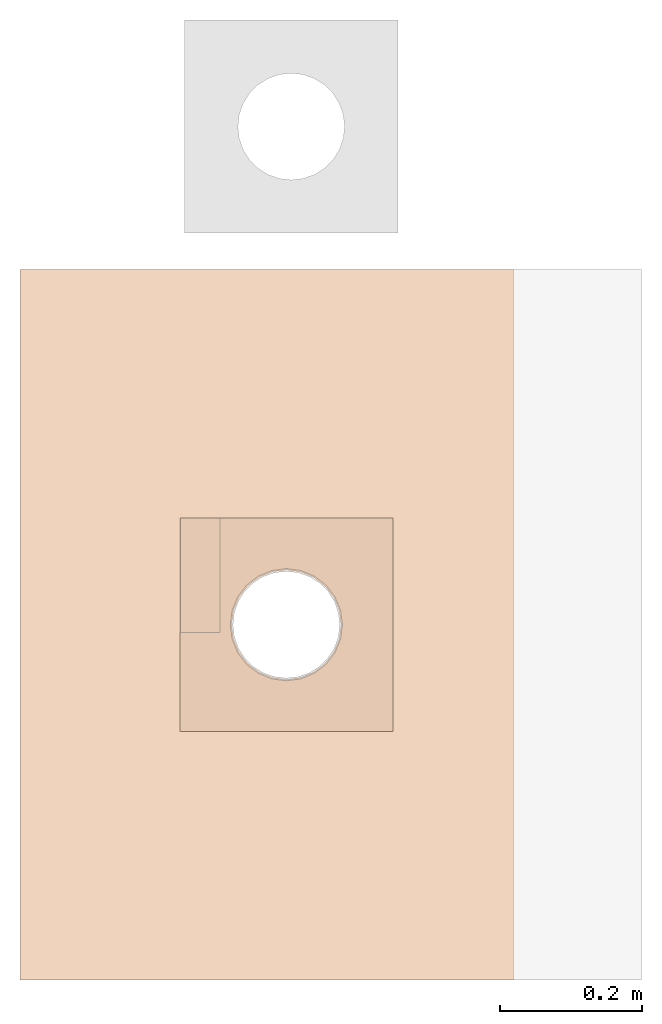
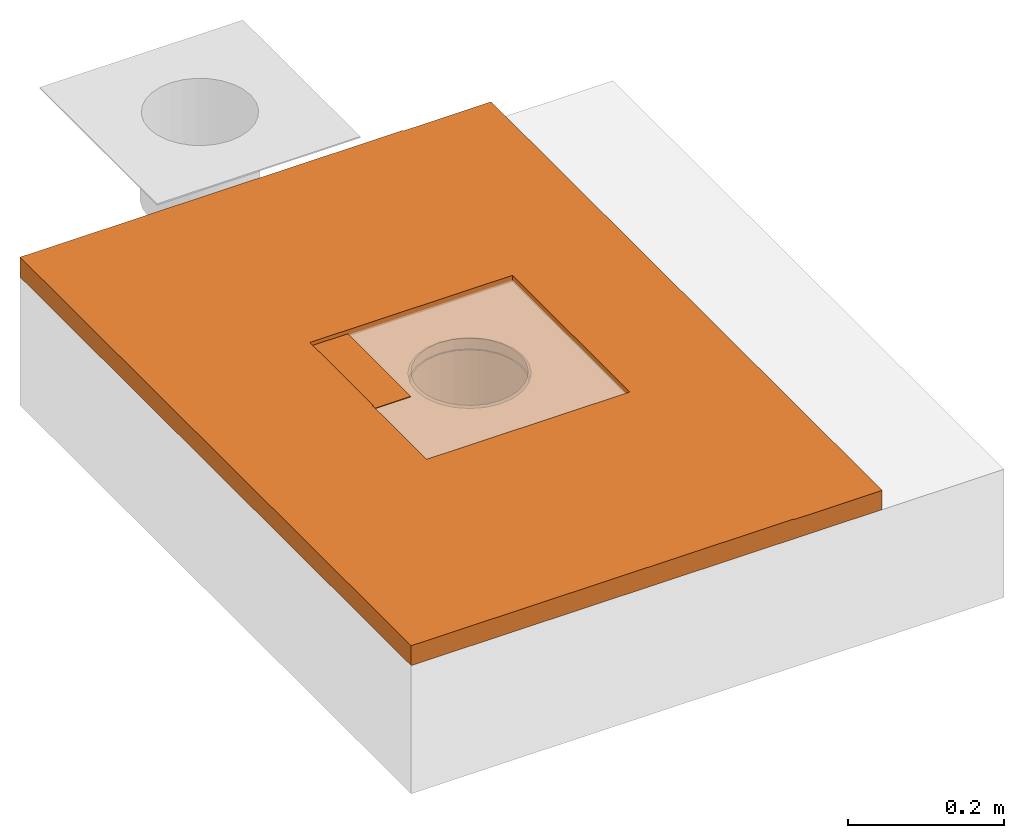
# One storey, part 3 of 3: 1 proxy.
"""IFC2X3 building model written with IfcOpenShell, lengths in metres."""

from ifc_helpers import new_model, entity, si_unit, converted_unit, derived_unit, direction, frame, origin, place, context, subcontext, project, spatial, faceted_brep, source, transform, mapped, material, material_list, type_object, type_shapes, element, save


model = new_model("IFC2X3")

# Units and contexts
model_context = context("Model", 3, precision=1e-05, world=origin(), true_north=direction((6.123031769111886e-17, 1.0)))
body_context = subcontext(model_context, "Body", "Model", "MODEL_VIEW")
ifc_project = project(units=[si_unit("LENGTHUNIT", "METRE"), si_unit("AREAUNIT", "SQUARE_METRE"), si_unit("VOLUMEUNIT", "CUBIC_METRE"), converted_unit("PLANEANGLEUNIT", "DEGREE", entity("IfcRatioMeasure", 0.017453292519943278), si_unit("PLANEANGLEUNIT", "RADIAN"), dimensions=[0, 0, 0, 0, 0, 0, 0]), si_unit("MASSUNIT", "GRAM", prefix="KILO"), derived_unit("MASSDENSITYUNIT", [(si_unit("MASSUNIT", "GRAM", prefix="KILO"), 1), (si_unit("LENGTHUNIT", "METRE"), -3)]), derived_unit("IONCONCENTRATIONUNIT", [(si_unit("MASSUNIT", "GRAM", prefix="KILO"), 1), (si_unit("LENGTHUNIT", "METRE"), -3)]), derived_unit("MOMENTOFINERTIAUNIT", [(si_unit("LENGTHUNIT", "METRE"), 4)]), si_unit("TIMEUNIT", "SECOND"), si_unit("FREQUENCYUNIT", "HERTZ"), si_unit("THERMODYNAMICTEMPERATUREUNIT", "DEGREE_CELSIUS"), derived_unit("THERMALTRANSMITTANCEUNIT", [(si_unit("MASSUNIT", "GRAM", prefix="KILO"), 1), (si_unit("THERMODYNAMICTEMPERATUREUNIT", "KELVIN"), -1), (si_unit("TIMEUNIT", "SECOND"), -3)]), derived_unit("THERMALCONDUCTANCEUNIT", [(si_unit("MASSUNIT", "GRAM", prefix="KILO"), 1), (si_unit("THERMODYNAMICTEMPERATUREUNIT", "KELVIN"), -1), (si_unit("TIMEUNIT", "SECOND"), -3), (si_unit("LENGTHUNIT", "METRE"), 1)]), derived_unit("VOLUMETRICFLOWRATEUNIT", [(si_unit("LENGTHUNIT", "METRE"), 3), (si_unit("TIMEUNIT", "SECOND"), -1)]), derived_unit("MASSFLOWRATEUNIT", [(si_unit("MASSUNIT", "GRAM", prefix="KILO"), 1), (si_unit("TIMEUNIT", "SECOND"), -1)]), derived_unit("ROTATIONALFREQUENCYUNIT", [(si_unit("TIMEUNIT", "SECOND"), -1)]), si_unit("ELECTRICCURRENTUNIT", "AMPERE"), si_unit("ELECTRICVOLTAGEUNIT", "VOLT"), si_unit("POWERUNIT", "WATT"), si_unit("FORCEUNIT", "NEWTON", prefix="KILO"), si_unit("ILLUMINANCEUNIT", "LUX"), si_unit("LUMINOUSFLUXUNIT", "LUMEN"), si_unit("LUMINOUSINTENSITYUNIT", "CANDELA"), derived_unit("USERDEFINED", [(si_unit("MASSUNIT", "GRAM", prefix="KILO"), -1), (si_unit("LENGTHUNIT", "METRE"), -2), (si_unit("TIMEUNIT", "SECOND"), 3), (si_unit("LUMINOUSFLUXUNIT", "LUMEN"), 1)]), derived_unit("USERDEFINED", [(si_unit("MASSUNIT", "GRAM", prefix="KILO"), 1), (si_unit("TIMEUNIT", "SECOND"), -3), (si_unit("LENGTHUNIT", "METRE"), 3), (si_unit("ELECTRICCURRENTUNIT", "AMPERE"), -2)]), derived_unit("SOUNDPOWERUNIT", [(si_unit("MASSUNIT", "GRAM", prefix="KILO"), 1), (si_unit("TIMEUNIT", "SECOND"), -3), (si_unit("LENGTHUNIT", "METRE"), 2)]), derived_unit("SOUNDPRESSUREUNIT", [(si_unit("MASSUNIT", "GRAM", prefix="KILO"), 1), (si_unit("LENGTHUNIT", "METRE"), -1), (si_unit("TIMEUNIT", "SECOND"), -2)]), derived_unit("LINEARVELOCITYUNIT", [(si_unit("LENGTHUNIT", "METRE"), 1), (si_unit("TIMEUNIT", "SECOND"), -1)]), si_unit("PRESSUREUNIT", "PASCAL"), derived_unit("USERDEFINED", [(si_unit("MASSUNIT", "GRAM", prefix="KILO"), 1), (si_unit("LENGTHUNIT", "METRE"), -2), (si_unit("TIMEUNIT", "SECOND"), -2)]), derived_unit("LINEARFORCEUNIT", [(si_unit("MASSUNIT", "GRAM", prefix="KILO"), 1), (si_unit("TIMEUNIT", "SECOND"), -2)]), derived_unit("PLANARFORCEUNIT", [(si_unit("MASSUNIT", "GRAM", prefix="KILO"), 1), (si_unit("LENGTHUNIT", "METRE"), -1), (si_unit("TIMEUNIT", "SECOND"), -2)]), derived_unit("SPECIFICHEATCAPACITYUNIT", [(si_unit("THERMODYNAMICTEMPERATUREUNIT", "KELVIN"), -1), (si_unit("LENGTHUNIT", "METRE"), 2), (si_unit("TIMEUNIT", "SECOND"), -2)]), derived_unit("HEATINGVALUEUNIT", [(si_unit("LENGTHUNIT", "METRE"), 2), (si_unit("TIMEUNIT", "SECOND"), -2)]), derived_unit("VAPORPERMEABILITYUNIT", [(si_unit("LENGTHUNIT", "METRE"), -1), (si_unit("TIMEUNIT", "SECOND"), 1)]), derived_unit("DYNAMICVISCOSITYUNIT", [(si_unit("MASSUNIT", "GRAM", prefix="KILO"), 1), (si_unit("TIMEUNIT", "SECOND"), -1), (si_unit("LENGTHUNIT", "METRE"), -1)]), derived_unit("THERMALEXPANSIONCOEFFICIENTUNIT", [(si_unit("THERMODYNAMICTEMPERATUREUNIT", "KELVIN"), -1)]), derived_unit("MODULUSOFELASTICITYUNIT", [(si_unit("MASSUNIT", "GRAM", prefix="KILO"), 1), (si_unit("LENGTHUNIT", "METRE"), -1), (si_unit("TIMEUNIT", "SECOND"), -2)]), derived_unit("ISOTHERMALMOISTURECAPACITYUNIT", [(si_unit("LENGTHUNIT", "METRE"), 3), (si_unit("MASSUNIT", "GRAM", prefix="KILO"), -1)]), derived_unit("MOISTUREDIFFUSIVITYUNIT", [(si_unit("TIMEUNIT", "SECOND"), -1), (si_unit("LENGTHUNIT", "METRE"), 2)])], contexts=[model_context])

# Site, building, storey
site_placement = place(None, origin())
site = spatial("IfcSite", under=ifc_project, at=site_placement, Name="Default", CompositionType="ELEMENT")
building_placement = place(site_placement, origin())
building = spatial("IfcBuilding", under=site, at=building_placement, CompositionType="ELEMENT")
storey_placement = place(building_placement, frame((0.0, 0.0, -0.0025237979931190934)))
storey = spatial("IfcBuildingStorey", under=building, at=storey_placement, Name="ARQ Térreo", CompositionType="ELEMENT", Elevation=-0.0025237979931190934)

# Proxy
ifc_material_1 = material(Name="#Impermeabilização")
ifc_material_2 = material(Name="Plástico")
ifc_material_3 = material(Name="#argamassa")
ifc_material_list = material_list([ifc_material_1, ifc_material_2, ifc_material_3])
building_element_proxy_type = type_object("IfcBuildingElementProxyType", Name="IMPER:IMPER", PredefinedType="NOTDEFINED", material=ifc_material_list)
shared_shape = source(origin(), body_context, "Body", "Brep", [
    faceted_brep([(0.2258540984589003, 0.48897795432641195, 0.3694349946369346), (0.22485409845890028, 0.48897795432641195, 0.3694349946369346), (0.22485409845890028, 0.48897795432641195, 0.3624128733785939), (0.28183460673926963, 0.48897795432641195, 0.3624128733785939), (0.28183460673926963, 0.48897795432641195, 0.36341287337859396), (0.2258540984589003, 0.48897795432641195, 0.36341287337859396), (0.2258540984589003, 0.6500658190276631, 0.3694349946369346), (0.2258540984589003, 0.6500658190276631, 0.36341287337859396), (0.28183460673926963, 0.6500658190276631, 0.36341287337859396), (0.28183460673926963, 0.6500658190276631, 0.3624128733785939), (0.22485409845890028, 0.6500658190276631, 0.3624128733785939), (0.22485409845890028, 0.6500658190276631, 0.3694349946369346)], [[[0, 1, 2, 3, 4, 5]], [[6, 7, 8, 9, 10, 11]], [[1, 0, 6, 11]], [[2, 1, 11, 10]], [[3, 2, 10, 9]], [[4, 3, 9, 8]], [[5, 4, 8, 7]], [[0, 5, 7, 6]]]),
    faceted_brep([(0.33535409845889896, 0.5684818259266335, 0.34300510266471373), (0.318992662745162, 0.5559272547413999, 0.34300510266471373), (0.33635409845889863, 0.5667497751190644, 0.34300510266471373), (0.35492503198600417, 0.5744421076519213, 0.34300510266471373), (0.35440739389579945, 0.5763739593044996, 0.34300510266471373), (0.32040687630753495, 0.5545130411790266, 0.34300510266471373), (0.306438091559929, 0.5395658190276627, 0.34300510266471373), (0.30817014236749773, 0.5385658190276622, 0.34300510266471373), (0.3004778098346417, 0.5199948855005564, 0.34300510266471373), (0.29854595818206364, 0.5205125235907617, 0.34300510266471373), (0.2978540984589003, 0.5000658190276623, 0.34300510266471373), (0.29585409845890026, 0.5000658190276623, 0.34300510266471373), (0.3004778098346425, 0.4801367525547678, 0.34300510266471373), (0.2985459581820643, 0.47961911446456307, 0.34300510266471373), (0.30817014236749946, 0.46156581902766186, 0.34300510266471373), (0.3064380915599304, 0.46056581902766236, 0.34300510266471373), (0.3204068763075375, 0.445618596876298, 0.34300510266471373), (0.31899266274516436, 0.4442043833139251, 0.34300510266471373), (0.33635409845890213, 0.43338186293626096, 0.34300510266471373), (0.33535409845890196, 0.43164981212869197, 0.34300510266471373), (0.3549250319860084, 0.4256895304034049, 0.34300510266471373), (0.3544073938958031, 0.4237576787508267, 0.34300510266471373), (0.3748540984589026, 0.42306581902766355, 0.34300510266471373), (0.37485409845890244, 0.4210658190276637, 0.34300510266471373), (0.3947831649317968, 0.42568953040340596, 0.34300510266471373), (0.39530080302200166, 0.4237576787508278, 0.34300510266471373), (0.4133540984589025, 0.43338186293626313, 0.34300510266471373), (0.4143540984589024, 0.43164981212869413, 0.34300510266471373), (0.4293013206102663, 0.4456185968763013, 0.34300510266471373), (0.43071553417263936, 0.4442043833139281, 0.34300510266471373), (0.44153805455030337, 0.4615658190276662, 0.34300510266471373), (0.4432701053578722, 0.46056581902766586, 0.34300510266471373), (0.45116223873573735, 0.4796191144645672, 0.34300510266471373), (0.4492303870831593, 0.4801367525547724, 0.34300510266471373), (0.45385409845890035, 0.5000658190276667, 0.34300510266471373), (0.45185409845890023, 0.5000658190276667, 0.34300510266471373), (0.45116223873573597, 0.5205125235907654, 0.34300510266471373), (0.4492303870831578, 0.5199948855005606, 0.34300510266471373), (0.44327010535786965, 0.5395658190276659, 0.34300510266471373), (0.4415380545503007, 0.538565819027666, 0.34300510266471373), (0.43071553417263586, 0.5559272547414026, 0.34300510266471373), (0.42930132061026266, 0.5545130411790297, 0.34300510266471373), (0.41435409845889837, 0.5684818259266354, 0.34300510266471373), (0.41335409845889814, 0.5667497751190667, 0.34300510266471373), (0.39530080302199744, 0.5763739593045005, 0.34300510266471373), (0.3947831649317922, 0.5744421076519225, 0.34300510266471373), (0.3748540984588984, 0.5790658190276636, 0.34300510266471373), (0.3748540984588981, 0.5770658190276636, 0.34300510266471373), (0.33535409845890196, 0.43164981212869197, 0.0), (0.31899266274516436, 0.4442043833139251, 0.0), (0.33635409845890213, 0.43338186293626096, 0.0), (0.3549250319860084, 0.4256895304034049, 0.0), (0.3544073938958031, 0.4237576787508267, 0.0), (0.3204068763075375, 0.445618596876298, 0.0), (0.3064380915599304, 0.46056581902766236, 0.0), (0.30817014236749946, 0.46156581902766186, 0.0), (0.3004778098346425, 0.4801367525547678, 0.0), (0.2985459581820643, 0.47961911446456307, 0.0), (0.2978540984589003, 0.5000658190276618, 0.0), (0.29585409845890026, 0.5000658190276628, 0.0), (0.3004778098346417, 0.5199948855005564, 0.0), (0.29854595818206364, 0.5205125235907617, 0.0), (0.30817014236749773, 0.5385658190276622, 0.0), (0.306438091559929, 0.5395658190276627, 0.0), (0.32040687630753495, 0.5545130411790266, 0.0), (0.318992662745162, 0.5559272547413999, 0.0), (0.33635409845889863, 0.5667497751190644, 0.0), (0.33535409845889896, 0.5684818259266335, 0.0), (0.35492503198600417, 0.5744421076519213, 0.0), (0.35440739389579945, 0.5763739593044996, 0.0), (0.3748540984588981, 0.5770658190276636, 0.0), (0.3748540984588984, 0.5790658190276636, 0.0), (0.3947831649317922, 0.5744421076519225, 0.0), (0.39530080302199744, 0.5763739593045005, 0.0), (0.41335409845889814, 0.5667497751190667, 0.0), (0.41435409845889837, 0.5684818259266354, 0.0), (0.42930132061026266, 0.5545130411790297, 0.0), (0.43071553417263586, 0.5559272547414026, 0.0), (0.4415380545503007, 0.538565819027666, 0.0), (0.44327010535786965, 0.5395658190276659, 0.0), (0.45116223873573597, 0.5205125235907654, 0.0), (0.4492303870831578, 0.5199948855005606, 0.0), (0.45385409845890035, 0.5000658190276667, 0.0), (0.45185409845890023, 0.5000658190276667, 0.0), (0.45116223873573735, 0.4796191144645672, 0.0), (0.4492303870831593, 0.4801367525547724, 0.0), (0.4432701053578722, 0.46056581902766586, 0.0), (0.44153805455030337, 0.4615658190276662, 0.0), (0.43071553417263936, 0.4442043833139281, 0.0), (0.4293013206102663, 0.4456185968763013, 0.0), (0.4143540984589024, 0.43164981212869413, 0.0), (0.4133540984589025, 0.43338186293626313, 0.0), (0.39530080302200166, 0.4237576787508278, 0.0), (0.3947831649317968, 0.42568953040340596, 0.0), (0.37485409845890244, 0.4210658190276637, 0.0), (0.3748540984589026, 0.42306581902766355, 0.0)], [[[0, 1, 2]], [[0, 2, 3]], [[3, 4, 0]], [[2, 1, 5]], [[6, 5, 1]], [[5, 6, 7]], [[7, 6, 8]], [[9, 8, 6]], [[9, 10, 8]], [[10, 9, 11]], [[12, 10, 11]], [[11, 13, 12]], [[12, 13, 14]], [[15, 14, 13]], [[14, 15, 16]], [[16, 15, 17]], [[18, 16, 17]], [[17, 19, 18]], [[18, 19, 20]], [[21, 20, 19]], [[20, 21, 22]], [[22, 21, 23]], [[22, 23, 24]], [[24, 23, 25]], [[24, 25, 26]], [[27, 26, 25]], [[28, 26, 27]], [[28, 27, 29]], [[29, 30, 28]], [[31, 30, 29]], [[30, 31, 32]], [[32, 33, 30]], [[34, 33, 32]], [[34, 35, 33]], [[36, 35, 34]], [[36, 37, 35]], [[37, 36, 38]], [[38, 39, 37]], [[39, 38, 40]], [[39, 40, 41]], [[40, 42, 41]], [[43, 41, 42]], [[43, 42, 44]], [[44, 45, 43]], [[46, 45, 44]], [[4, 47, 46]], [[46, 47, 45]], [[47, 4, 3]], [[48, 49, 50]], [[48, 50, 51]], [[51, 52, 48]], [[50, 49, 53]], [[54, 53, 49]], [[53, 54, 55]], [[55, 54, 56]], [[57, 56, 54]], [[57, 58, 56]], [[58, 57, 59]], [[60, 58, 59]], [[59, 61, 60]], [[60, 61, 62]], [[63, 62, 61]], [[62, 63, 64]], [[64, 63, 65]], [[66, 64, 65]], [[65, 67, 66]], [[66, 67, 68]], [[69, 68, 67]], [[68, 69, 70]], [[70, 69, 71]], [[70, 71, 72]], [[72, 71, 73]], [[72, 73, 74]], [[75, 74, 73]], [[76, 74, 75]], [[76, 75, 77]], [[77, 78, 76]], [[79, 78, 77]], [[78, 79, 80]], [[80, 81, 78]], [[82, 81, 80]], [[82, 83, 81]], [[84, 83, 82]], [[84, 85, 83]], [[85, 84, 86]], [[86, 87, 85]], [[87, 86, 88]], [[87, 88, 89]], [[88, 90, 89]], [[91, 89, 90]], [[91, 90, 92]], [[92, 93, 91]], [[94, 93, 92]], [[52, 95, 94]], [[94, 95, 93]], [[95, 52, 51]], [[33, 35, 83, 85]], [[33, 85, 87, 30]], [[26, 28, 89, 91]], [[89, 28, 30, 87]], [[24, 26, 91, 93]], [[93, 95, 22, 24]], [[18, 20, 51, 50]], [[18, 50, 53, 16]], [[12, 14, 55, 56]], [[55, 14, 16, 53]], [[10, 12, 56, 58]], [[22, 95, 51, 20]], [[8, 10, 58, 60]], [[8, 60, 62, 7]], [[2, 5, 64, 66]], [[64, 5, 7, 62]], [[3, 2, 66, 68]], [[68, 70, 47, 3]], [[43, 45, 72, 74]], [[43, 74, 76, 41]], [[37, 39, 78, 81]], [[78, 39, 41, 76]], [[35, 37, 81, 83]], [[47, 70, 72, 45]], [[36, 80, 79, 38]], [[82, 80, 36, 34]], [[75, 42, 40, 77]], [[77, 40, 38, 79]], [[44, 42, 75, 73]], [[73, 71, 46, 44]], [[0, 4, 69, 67]], [[65, 1, 0, 67]], [[9, 6, 63, 61]], [[65, 63, 6, 1]], [[11, 9, 61, 59]], [[69, 4, 46, 71]], [[13, 11, 59, 57]], [[54, 15, 13, 57]], [[19, 17, 49, 48]], [[54, 49, 17, 15]], [[21, 19, 48, 52]], [[52, 94, 23, 21]], [[27, 25, 92, 90]], [[88, 29, 27, 90]], [[32, 31, 86, 84]], [[88, 86, 31, 29]], [[34, 32, 84, 82]], [[92, 25, 23, 94]]]),
    faceted_brep([(0.0, 1.0, 0.3684093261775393), (0.6952748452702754, 1.0, 0.3684093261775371), (0.6952748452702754, 1.0, 0.3384093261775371), (0.0, 1.0, 0.3384093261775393), (0.0, 0.0, 0.3384093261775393), (0.6952748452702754, 0.0, 0.3384093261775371), (0.6952748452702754, 0.0, 0.3684093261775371), (0.0, 0.0, 0.3684093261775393), (0.22485409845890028, 0.6500658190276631, 0.36840932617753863), (0.22485409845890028, 0.3500658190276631, 0.36840932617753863), (0.5248540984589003, 0.3500658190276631, 0.3684093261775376), (0.5248540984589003, 0.6500658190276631, 0.3684093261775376), (0.41435409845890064, 0.5684818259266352, 0.338409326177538), (0.3953008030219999, 0.5763739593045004, 0.33840932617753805), (0.43071553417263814, 0.5559272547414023, 0.33840932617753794), (0.37485409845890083, 0.5790658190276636, 0.3384093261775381), (0.4432701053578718, 0.5395658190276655, 0.33840932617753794), (0.451162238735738, 0.520512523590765, 0.33840932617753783), (0.45385409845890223, 0.5000658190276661, 0.33840932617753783), (0.45116223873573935, 0.4796191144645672, 0.33840932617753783), (0.4432701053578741, 0.46056581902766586, 0.33840932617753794), (0.43071553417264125, 0.4442043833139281, 0.33840932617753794), (0.4143540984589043, 0.43164981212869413, 0.338409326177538), (0.39530080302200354, 0.4237576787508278, 0.33840932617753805), (0.37485409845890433, 0.4210658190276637, 0.3384093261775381), (0.354407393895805, 0.4237576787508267, 0.3384093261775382), (0.33535409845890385, 0.43164981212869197, 0.33840932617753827), (0.31899266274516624, 0.4442043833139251, 0.3384093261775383), (0.3064380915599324, 0.46056581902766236, 0.3384093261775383), (0.2985459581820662, 0.47961911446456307, 0.3384093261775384), (0.29585409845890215, 0.5000658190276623, 0.3384093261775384), (0.3544073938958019, 0.5763739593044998, 0.3384093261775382), (0.3353540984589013, 0.5684818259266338, 0.33840932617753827), (0.31899266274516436, 0.5559272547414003, 0.3384093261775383), (0.3064380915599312, 0.5395658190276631, 0.3384093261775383), (0.2985459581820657, 0.5205125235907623, 0.3384093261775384), (0.5248540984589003, 0.6500658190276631, 0.36033930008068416), (0.22485409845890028, 0.6500658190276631, 0.36033930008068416), (0.22485409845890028, 0.3500658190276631, 0.36033930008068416), (0.5248540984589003, 0.3500658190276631, 0.36033930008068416), (0.2985459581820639, 0.5205125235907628, 0.36033930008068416), (0.30643809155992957, 0.5395658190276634, 0.36033930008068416), (0.29585409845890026, 0.5000658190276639, 0.36033930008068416), (0.3189926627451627, 0.5559272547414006, 0.36033930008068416), (0.3353540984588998, 0.568481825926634, 0.36033930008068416), (0.3544073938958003, 0.5763739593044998, 0.36033930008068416), (0.3748540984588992, 0.5790658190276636, 0.36033930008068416), (0.3953008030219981, 0.5763739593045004, 0.36033930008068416), (0.41435409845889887, 0.568481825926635, 0.36033930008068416), (0.43071553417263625, 0.5559272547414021, 0.36033930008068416), (0.4432701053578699, 0.5395658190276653, 0.36033930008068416), (0.45116223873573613, 0.5205125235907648, 0.36033930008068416), (0.45385409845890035, 0.5000658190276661, 0.36033930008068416), (0.45116223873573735, 0.4796191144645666, 0.36033930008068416), (0.4432701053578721, 0.4605658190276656, 0.36033930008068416), (0.4307155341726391, 0.4442043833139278, 0.36033930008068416), (0.414354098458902, 0.43164981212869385, 0.36033930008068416), (0.3953008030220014, 0.4237576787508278, 0.36033930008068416), (0.37485409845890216, 0.4210658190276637, 0.36033930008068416), (0.35440739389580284, 0.4237576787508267, 0.36033930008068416), (0.3353540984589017, 0.43164981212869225, 0.36033930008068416), (0.3189926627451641, 0.44420438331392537, 0.36033930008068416), (0.3064380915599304, 0.46056581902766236, 0.36033930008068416), (0.2985459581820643, 0.47961911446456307, 0.36033930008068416)], [[[0, 1, 2, 3]], [[4, 5, 6, 7]], [[0, 8, 1]], [[8, 0, 9]], [[7, 9, 0]], [[9, 7, 6]], [[10, 6, 1]], [[6, 10, 9]], [[11, 1, 8]], [[1, 11, 10]], [[2, 1, 6, 5]], [[2, 12, 13]], [[12, 2, 14]], [[2, 13, 15]], [[16, 14, 2]], [[17, 16, 2]], [[18, 17, 2]], [[2, 5, 18]], [[15, 3, 2]], [[19, 18, 5]], [[20, 19, 5]], [[21, 20, 5]], [[5, 22, 21]], [[22, 5, 23]], [[24, 23, 5]], [[5, 4, 24]], [[25, 24, 4]], [[26, 25, 4]], [[4, 27, 26]], [[27, 4, 28]], [[29, 28, 4]], [[30, 29, 4]], [[30, 4, 3]], [[3, 15, 31]], [[3, 31, 32]], [[32, 33, 3]], [[33, 34, 3]], [[34, 35, 3]], [[3, 35, 30]], [[0, 3, 4, 7]], [[36, 11, 8, 37]], [[37, 8, 9, 38]], [[38, 9, 10, 39]], [[39, 10, 11, 36]], [[40, 41, 37]], [[42, 40, 37]], [[43, 37, 41]], [[37, 43, 44]], [[37, 44, 45]], [[37, 45, 46]], [[46, 36, 37]], [[36, 46, 47]], [[36, 47, 48]], [[36, 48, 49]], [[49, 50, 36]], [[51, 36, 50]], [[36, 51, 52]], [[52, 39, 36]], [[39, 52, 53]], [[39, 53, 54]], [[54, 55, 39]], [[56, 39, 55]], [[39, 56, 57]], [[39, 57, 58]], [[38, 39, 58]], [[58, 59, 38]], [[38, 59, 60]], [[38, 60, 61]], [[38, 61, 62]], [[62, 63, 38]], [[63, 42, 38]], [[37, 38, 42]], [[18, 52, 51, 17]], [[17, 51, 50, 16]], [[12, 14, 49, 48]], [[49, 14, 16, 50]], [[13, 12, 48, 47]], [[13, 47, 46, 15]], [[31, 45, 44, 32]], [[32, 44, 43, 33]], [[35, 34, 41, 40]], [[41, 34, 33, 43]], [[30, 35, 40, 42]], [[15, 46, 45, 31]], [[62, 28, 29, 63]], [[63, 29, 30, 42]], [[59, 25, 26, 60]], [[60, 26, 27, 61]], [[61, 27, 28, 62]], [[59, 58, 24, 25]], [[21, 22, 56, 55]], [[22, 23, 57, 56]], [[19, 20, 54, 53]], [[54, 20, 21, 55]], [[18, 19, 53, 52]], [[24, 58, 57, 23]]]),
    faceted_brep([(0.5648540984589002, 1.0, 0.36943499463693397), (0.5648540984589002, 1.0, 0.36840932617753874), (0.0, 1.0, 0.36840932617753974), (0.0, 1.0, 0.36943499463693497), (0.5648540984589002, 0.0, 0.36943499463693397), (0.0, 0.0, 0.36943499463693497), (0.0, 0.0, 0.36840932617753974), (0.5648540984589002, 0.0, 0.36840932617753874), (0.22485409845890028, 0.6500658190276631, 0.3694349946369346), (0.5248540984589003, 0.6500658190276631, 0.369434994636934), (0.5248540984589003, 0.3500658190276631, 0.369434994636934), (0.22485409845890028, 0.3500658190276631, 0.3694349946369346), (0.5248540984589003, 0.6500658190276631, 0.3684093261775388), (0.22485409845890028, 0.6500658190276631, 0.36840932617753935), (0.22485409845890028, 0.3500658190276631, 0.36840932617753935), (0.5248540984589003, 0.3500658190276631, 0.3684093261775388)], [[[0, 1, 2, 3]], [[4, 5, 6, 7]], [[0, 3, 5, 4], [8, 9, 10, 11]], [[1, 0, 4, 7]], [[2, 1, 7, 6], [12, 13, 14, 15]], [[3, 2, 6, 5]], [[12, 9, 8, 13]], [[13, 8, 11, 14]], [[14, 11, 10, 15]], [[9, 12, 15, 10]]]),
])
type_shapes(building_element_proxy_type, [shared_shape])
proxy_placement = place(storey_placement, frame((0.5478103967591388, -1.7380570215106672, -0.3384093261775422)))
element("IfcBuildingElementProxy", 1, at=proxy_placement, inside=storey, type_object=building_element_proxy_type, material=ifc_material_list, Name="IMPER:IMPER:IMPER : IMPER:IMPER", ObjectType="IMPER:IMPER:IMPER : IMPER:IMPER", context=body_context, shape_type="MappedRepresentation", body=[
    mapped(shared_shape, transform((0.0, 0.0, 0.0), scale=1.0)),
])

save(model, "model.ifc")
